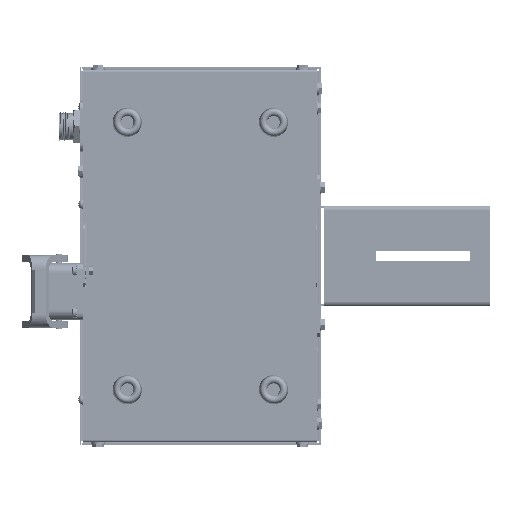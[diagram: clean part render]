
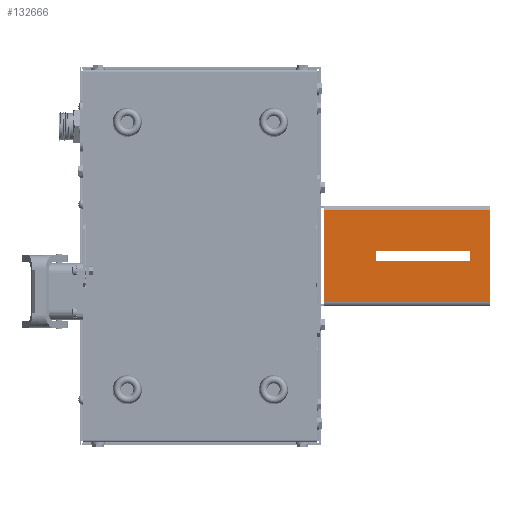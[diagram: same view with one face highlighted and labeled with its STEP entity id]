
A CAD part, front view. The second image highlights one B-rep face of the part: STEP entity #132666.
In plain terms, the highlighted planar face has unit normal (0, -1, 0).
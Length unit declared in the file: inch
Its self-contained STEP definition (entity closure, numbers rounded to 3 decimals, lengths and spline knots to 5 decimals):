
#4505 = EDGE_CURVE ( 'NONE', #110028, #145453, #228304, .T. ) ;
#6838 = DIRECTION ( 'NONE',  ( 0., 0., 1. ) ) ;
#22664 = CARTESIAN_POINT ( 'NONE',  ( 0.155, -0.0747, 2.57033 ) ) ;
#25575 = CARTESIAN_POINT ( 'NONE',  ( 0.155, -0.0747, -0.23967 ) ) ;
#29230 = LINE ( 'NONE', #241422, #275163 ) ;
#29561 = CARTESIAN_POINT ( 'NONE',  ( -0.155, -0.0747, 2.57033 ) ) ;
#29992 = VERTEX_POINT ( 'NONE', #303096 ) ;
#30786 = DIRECTION ( 'NONE',  ( 0., 0., 1. ) ) ;
#31876 = ORIENTED_EDGE ( 'NONE', *, *, #61507, .F. ) ;
#32732 = ORIENTED_EDGE ( 'NONE', *, *, #229186, .T. ) ;
#35542 = ORIENTED_EDGE ( 'NONE', *, *, #232700, .T. ) ;
#36121 = CARTESIAN_POINT ( 'NONE',  ( -0.155, -0.0747, -0.23967 ) ) ;
#49171 = CARTESIAN_POINT ( 'NONE',  ( 0.155, -0.0747, -0.23967 ) ) ;
#49488 = CARTESIAN_POINT ( 'NONE',  ( 1.3653, -0.0747, 3.16513 ) ) ;
#58784 = ORIENTED_EDGE ( 'NONE', *, *, #227546, .T. ) ;
#61507 = EDGE_CURVE ( 'NONE', #274956, #324638, #172603, .T. ) ;
#74420 = VECTOR ( 'NONE', #346049, 39.37008 ) ;
#88631 = DIRECTION ( 'NONE',  ( 0., 0., -1. ) ) ;
#92862 = DIRECTION ( 'NONE',  ( 1., 0., 0. ) ) ;
#95497 = EDGE_LOOP ( 'NONE', ( #242768, #58784, #201137, #257034 ) ) ;
#97469 = EDGE_CURVE ( 'NONE', #169638, #110028, #98215, .T. ) ;
#98215 = LINE ( 'NONE', #49171, #317796 ) ;
#105293 = CARTESIAN_POINT ( 'NONE',  ( 0., -0.0747, -1.80927 ) ) ;
#110028 = VERTEX_POINT ( 'NONE', #308782 ) ;
#124960 = VERTEX_POINT ( 'NONE', #245491 ) ;
#132666 = ADVANCED_FACE ( 'NONE', ( #334575, #141035 ), #171745, .F. ) ;
#141035 = FACE_OUTER_BOUND ( 'NONE', #184231, .T. ) ;
#145453 = VERTEX_POINT ( 'NONE', #29561 ) ;
#152527 = LINE ( 'NONE', #105293, #74420 ) ;
#156261 = DIRECTION ( 'NONE',  ( 1., 0., 0. ) ) ;
#169638 = VERTEX_POINT ( 'NONE', #25575 ) ;
#171745 = PLANE ( 'NONE',  #311933 ) ;
#172603 = LINE ( 'NONE', #282965, #340216 ) ;
#184231 = EDGE_LOOP ( 'NONE', ( #315838, #35542, #31876, #32732 ) ) ;
#189643 = VECTOR ( 'NONE', #207096, 39.37008 ) ;
#199002 = VECTOR ( 'NONE', #88631, 39.37008 ) ;
#201137 = ORIENTED_EDGE ( 'NONE', *, *, #97469, .T. ) ;
#201771 = LINE ( 'NONE', #286648, #189643 ) ;
#202034 = CARTESIAN_POINT ( 'NONE',  ( -1.3653, -0.0747, 3.16513 ) ) ;
#207096 = DIRECTION ( 'NONE',  ( 0., 0., 1. ) ) ;
#209437 = CARTESIAN_POINT ( 'NONE',  ( 0.155, -0.0747, 2.57033 ) ) ;
#209908 = VECTOR ( 'NONE', #156261, 39.37008 ) ;
#212364 = LINE ( 'NONE', #297271, #209908 ) ;
#227546 = EDGE_CURVE ( 'NONE', #350666, #169638, #267254, .T. ) ;
#228304 = LINE ( 'NONE', #36121, #305859 ) ;
#229186 = EDGE_CURVE ( 'NONE', #274956, #124960, #29230, .T. ) ;
#229706 = DIRECTION ( 'NONE',  ( 0., 1., 0. ) ) ;
#232700 = EDGE_CURVE ( 'NONE', #29992, #324638, #201771, .T. ) ;
#241422 = CARTESIAN_POINT ( 'NONE',  ( -1.3653, -0.0747, 3.16513 ) ) ;
#242768 = ORIENTED_EDGE ( 'NONE', *, *, #245862, .T. ) ;
#245491 = CARTESIAN_POINT ( 'NONE',  ( -1.3653, -0.0747, -1.80927 ) ) ;
#245862 = EDGE_CURVE ( 'NONE', #145453, #350666, #212364, .T. ) ;
#257034 = ORIENTED_EDGE ( 'NONE', *, *, #4505, .T. ) ;
#261222 = DIRECTION ( 'NONE',  ( -1., 0., 0. ) ) ;
#267254 = LINE ( 'NONE', #209437, #199002 ) ;
#274956 = VERTEX_POINT ( 'NONE', #202034 ) ;
#275163 = VECTOR ( 'NONE', #329810, 39.37008 ) ;
#278580 = CARTESIAN_POINT ( 'NONE',  ( 0., -0.0747, 0. ) ) ;
#282965 = CARTESIAN_POINT ( 'NONE',  ( -1.5, -0.0747, 3.16513 ) ) ;
#286648 = CARTESIAN_POINT ( 'NONE',  ( 1.3653, -0.0747, -2. ) ) ;
#297271 = CARTESIAN_POINT ( 'NONE',  ( -0.155, -0.0747, 2.57033 ) ) ;
#303096 = CARTESIAN_POINT ( 'NONE',  ( 1.3653, -0.0747, -1.80927 ) ) ;
#305859 = VECTOR ( 'NONE', #30786, 39.37008 ) ;
#308782 = CARTESIAN_POINT ( 'NONE',  ( -0.155, -0.0747, -0.23967 ) ) ;
#311933 = AXIS2_PLACEMENT_3D ( 'NONE', #278580, #229706, #6838 ) ;
#315838 = ORIENTED_EDGE ( 'NONE', *, *, #331625, .T. ) ;
#317796 = VECTOR ( 'NONE', #261222, 39.37008 ) ;
#324638 = VERTEX_POINT ( 'NONE', #49488 ) ;
#329810 = DIRECTION ( 'NONE',  ( 0., 0., -1. ) ) ;
#331625 = EDGE_CURVE ( 'NONE', #124960, #29992, #152527, .T. ) ;
#334575 = FACE_BOUND ( 'NONE', #95497, .T. ) ;
#340216 = VECTOR ( 'NONE', #92862, 39.37008 ) ;
#346049 = DIRECTION ( 'NONE',  ( 1., 0., 0. ) ) ;
#350666 = VERTEX_POINT ( 'NONE', #22664 ) ;
